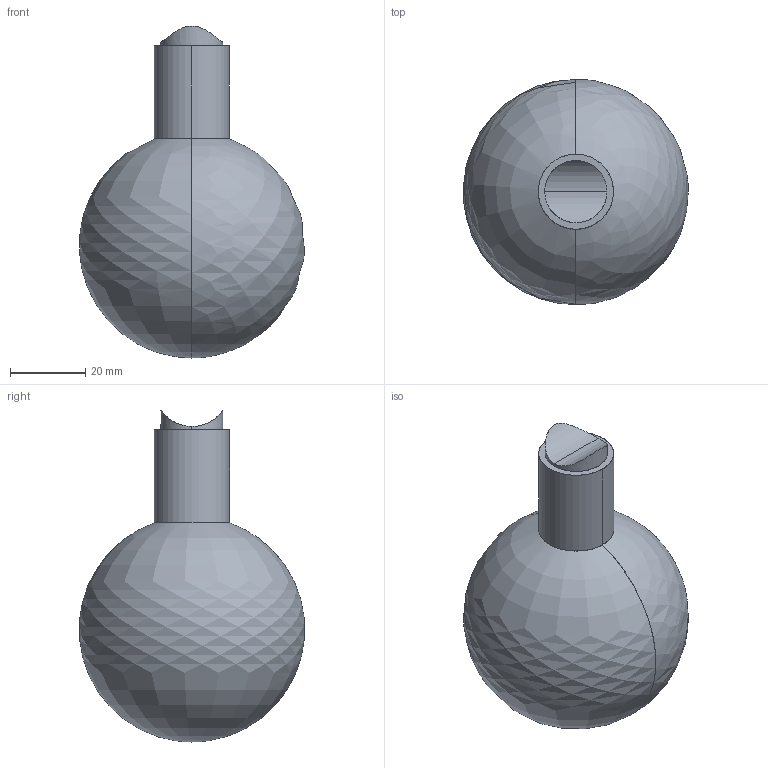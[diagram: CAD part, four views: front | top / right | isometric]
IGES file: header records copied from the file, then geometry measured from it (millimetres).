
Start section: SolidWorks IGES file using analytic representation for surfaces
Global section: file name: C:\Users\Joandita\Dropbox\Rakumba Marketing - Design\PRODUCT\TYPOGRAPHY\VELA\PRODUCT PHOTOGRAPHY\WORKING FILES\RENDERS\CAD\Lightweight\Lights\Globe 60.IGS; native system: SolidWorks 2017; preprocessor: SolidWorks 2017; author: Joandita; date: 210916.120509; units: millimetre
Bounding box: 59.81 x 59.87 x 88.32 mm (x, y, z)
Surface area: 25503.6 mm2 (no closed solid volume)
Topology: 0 solids, 0 shells, 21 faces, 376 edges, 375 vertices
Faces by surface type: revolution 16, bspline 5
